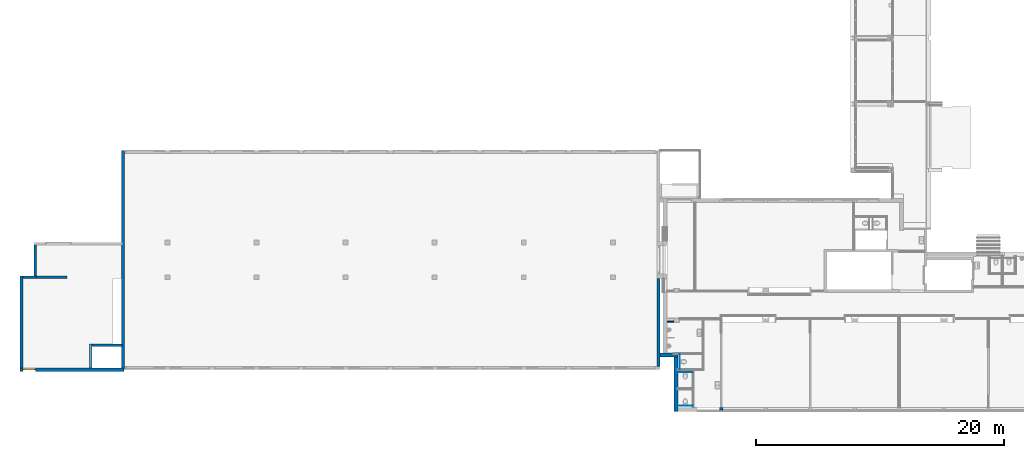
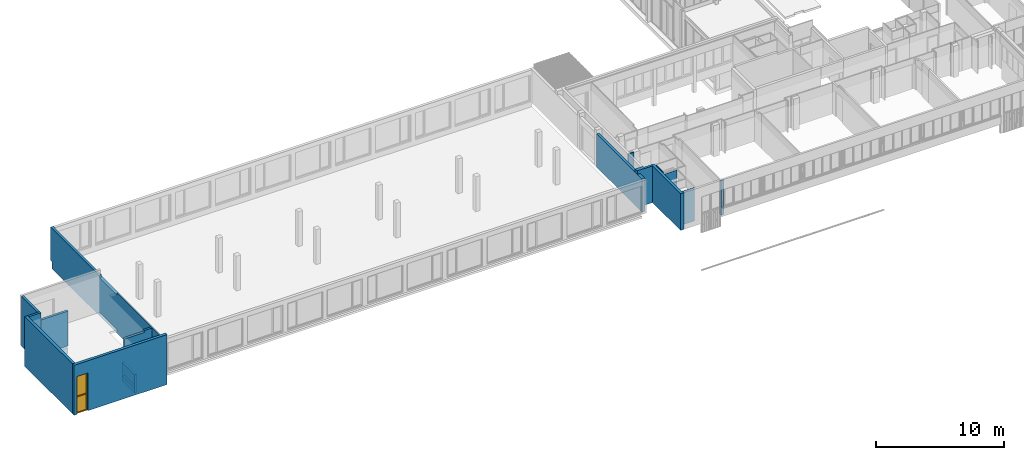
# One storey, part 36 of 99: 16 walls, 1 window, 1 opening.
"""IFC2X3 building model written with IfcOpenShell, lengths in millimetres."""

from ifc_helpers import new_model, entity, si_unit, converted_unit, derived_unit, money_unit, direction, frame, origin_with_axes, place, context, subcontext, project, spatial, open_shell, faceted_brep, surface_model, material, type_object, element, fill, save


model = new_model("IFC2X3")

# Units and contexts
model_context = context("Model", 3, precision=0.01, world=origin_with_axes(), true_north=direction((0.0, 1.0)))
body_context = subcontext(model_context, "Body", "Model", "MODEL_VIEW")
ifc_project = project(units=[si_unit("LENGTHUNIT", "METRE", prefix="MILLI"), si_unit("AREAUNIT", "SQUARE_METRE"), si_unit("VOLUMEUNIT", "CUBIC_METRE"), converted_unit("PLANEANGLEUNIT", "DEGREE", entity("IfcPlaneAngleMeasure", 0.0174532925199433), si_unit("PLANEANGLEUNIT", "RADIAN"), dimensions=[0, 0, 0, 0, 0, 0, 0]), money_unit("EUR"), converted_unit("TIMEUNIT", "Year", entity("IfcTimeMeasure", 31557600.0), si_unit("TIMEUNIT", "SECOND"), dimensions=[0, 0, 1, 0, 0, 0, 0]), si_unit("MASSUNIT", "GRAM", prefix="KILO"), si_unit("THERMODYNAMICTEMPERATUREUNIT", "DEGREE_CELSIUS"), si_unit("LUMINOUSINTENSITYUNIT", "LUMEN"), si_unit("ENERGYUNIT", "JOULE", prefix="MEGA"), derived_unit("THERMALCONDUCTANCEUNIT", [(si_unit("POWERUNIT", "WATT"), 1), (si_unit("LENGTHUNIT", "METRE"), -1), (si_unit("THERMODYNAMICTEMPERATUREUNIT", "KELVIN"), -1)]), derived_unit("SPECIFICHEATCAPACITYUNIT", [(si_unit("ENERGYUNIT", "JOULE"), 1), (si_unit("MASSUNIT", "GRAM", prefix="KILO"), -1), (si_unit("THERMODYNAMICTEMPERATUREUNIT", "KELVIN"), -1)]), derived_unit("MASSDENSITYUNIT", [(si_unit("MASSUNIT", "GRAM", prefix="KILO"), 1), (si_unit("VOLUMEUNIT", "CUBIC_METRE"), -1)])], contexts=[model_context])

# Site, building, storey
site_placement = place(None, origin_with_axes())
site = spatial("IfcSite", under=ifc_project, at=site_placement, Name="Site", CompositionType="ELEMENT")
building_placement = place(site_placement, origin_with_axes())
building = spatial("IfcBuilding", under=site, at=building_placement, Name="Naam gebouw", CompositionType="ELEMENT")
storey_placement = place(building_placement, frame((0.0, 0.0, 7650.0), z_axis=(0.0, 0.0, 1.0), x_axis=(1.0, 0.0, 0.0)))
storey = spatial("IfcBuildingStorey", under=building, at=storey_placement, Name="2e verdieping N", CompositionType="ELEMENT", Elevation=7650.0)

# Walls
ifc_material_1 = material(Name="ALG - CONSTRUCTIEF")
wall_type_1 = type_object("IfcWallType", Name="ALG - CONSTRUCTIEF 100", PredefinedType="NOTDEFINED")
wall_1_placement = place(storey_placement, frame((-769.586231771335, 10391.00442345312, -99.99999999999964), z_axis=(0.0, 0.0, 1.0), x_axis=(1.0, 0.0, 0.0)))
element("IfcWall", 1, at=wall_1_placement, inside=storey, type_object=wall_type_1, material=ifc_material_1, Name="_Wand-x", context=body_context, shape_type="Brep", body=[
    faceted_brep([(519.586231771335, 50.00000000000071, 99.99999999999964), (0.0, 50.00000000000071, 99.99999999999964), (0.0, 50.00000000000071, 3089.999999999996), (519.586231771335, 50.00000000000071, 3089.999999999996), (519.586231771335, -50.00000000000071, 99.99999999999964), (0.0, -50.00000000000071, 99.99999999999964), (0.0, -49.99999999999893, 3089.999999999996), (519.586231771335, -49.99999999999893, 3089.999999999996)], [[[0, 1, 2, 3]], [[4, 5, 1, 0]], [[1, 5, 6, 2]], [[2, 6, 7, 3]], [[4, 0, 3, 7]], [[5, 4, 7, 6]]]),
])
wall_type_2 = type_object("IfcWallType", Name="ALG - CONSTRUCTIEF 200", PredefinedType="NOTDEFINED")
wall_2_placement = place(storey_placement, frame((-53049.99999999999, 13965.57502434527, -1200.0), z_axis=(0.0, 0.0, 1.0), x_axis=(1.0, 0.0, 0.0)))
element("IfcWall", 2, at=wall_2_placement, inside=storey, type_object=wall_type_2, material=ifc_material_1, Name="_Wand-x", context=body_context, shape_type="Brep", body=[
    faceted_brep([(250.0, 99.99999999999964, 0.0), (250.0, 99.99999999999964, 740.0000000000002), (250.0, 99.99999999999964, 4760.000000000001), (1350.000000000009, 99.99999999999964, 4760.000000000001), (1350.000000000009, 99.99999999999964, 0.0), (250.0, -99.99999999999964, 0.0), (250.0, -99.99999999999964, 4760.000000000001), (1350.000000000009, -99.99999999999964, 4760.000000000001), (1350.000000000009, -99.99999999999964, 0.0)], [[[0, 1, 2, 3, 4]], [[5, 6, 2, 1, 0]], [[3, 2, 6, 7]], [[8, 4, 3, 7]], [[8, 5, 0, 4]], [[7, 6, 5, 8]]]),
])
wall_3_placement = place(storey_placement, frame((-51699.99999999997, 13965.57502434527, -1200.0), z_axis=(0.0, 0.0, 1.0), x_axis=(1.0, 0.0, 0.0)))
element("IfcWall", 3, at=wall_3_placement, inside=storey, type_object=wall_type_2, material=ifc_material_1, Name="_Wand-x", context=body_context, shape_type="Brep", body=[
    faceted_brep([(0.0, 99.99999999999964, 0.0), (-5.400124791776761e-10, 99.99999999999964, 540.0), (2449.999999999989, 99.99999999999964, 540.0), (2449.999999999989, 99.99999999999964, 0.0), (0.0, -99.99999999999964, 0.0), (0.0, -99.99999999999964, 540.0), (2449.999999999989, -99.99999999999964, 540.0), (2449.999999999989, -99.99999999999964, 0.0)], [[[0, 1, 2, 3]], [[4, 5, 1, 0]], [[5, 6, 2, 1]], [[3, 2, 6, 7]], [[7, 4, 0, 3]], [[7, 6, 5, 4]]]),
    faceted_brep([(2449.999999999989, -99.99999999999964, 4060.000000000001), (2449.999999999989, -99.99999999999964, 740.0000000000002), (2449.999999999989, 99.99999999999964, 740.0000000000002), (2449.999999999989, 99.99999999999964, 4060.000000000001), (0.0, -99.99999999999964, 4060.000000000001), (0.0, -99.99999999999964, 740.0000000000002), (-5.400124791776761e-10, 99.99999999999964, 740.0000000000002), (0.0, 99.99999999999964, 4060.000000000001)], [[[0, 1, 2, 3]], [[4, 5, 1, 0]], [[5, 6, 2, 1]], [[3, 2, 6, 7]], [[3, 7, 4, 0]], [[7, 6, 5, 4]]]),
])
wall_4_placement = place(storey_placement, frame((-47349.99999999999, 6365.575024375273, -1200.0), z_axis=(0.0, 0.0, 1.0), x_axis=(0.0, 1.0, 0.0)))
element("IfcWall", 4, at=wall_4_placement, inside=storey, type_object=wall_type_2, material=ifc_material_1, Name="_Wand-x", context=body_context, shape_type="Brep", body=[
    faceted_brep([(2199.93011899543, 99.99999999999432, 0.0), (2199.930118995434, 100.0000000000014, 540.0), (2199.930118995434, -100.0000000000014, 540.0), (2199.93011899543, -100.0000000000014, 0.0), (250.2190148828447, 100.0000000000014, 739.9999999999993), (250.2190148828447, 100.0000000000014, 540.0), (250.0, 100.0000000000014, 0.0), (250.0, 100.0000000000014, 1759.999999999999), (2199.930118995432, 100.0000000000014, 1759.999999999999), (2199.930118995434, 100.0000000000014, 739.9999999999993), (1999.930118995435, 100.0000000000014, 739.9999999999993), (250.0, -100.0000000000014, 540.0), (250.0, -100.0000000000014, 0.0), (250.0, -100.0000000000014, 740.0000000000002), (250.0, -100.0000000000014, 1759.999999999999), (2199.930118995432, -100.0000000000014, 1759.999999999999), (2199.930118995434, -100.0000000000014, 739.9999999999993), (1999.930094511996, -100.0000000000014, 739.9999999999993)], [[[0, 1, 2, 3]], [[4, 5, 1, 0, 6, 7, 8, 9, 10]], [[11, 2, 1, 5]], [[2, 11, 12, 3]], [[0, 3, 12, 6]], [[4, 13, 11, 5]], [[12, 11, 13, 14, 7, 6]], [[15, 8, 7, 14]], [[8, 15, 16, 9]], [[16, 17, 13, 4, 10, 9]], [[14, 13, 17, 16, 15]]]),
])
wall_5_placement = place(storey_placement, frame((-51799.99999999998, 16690.57502431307, -1200.0), z_axis=(0.0, 0.0, 1.0), x_axis=(0.0, -1.0, 0.0)))
element("IfcWall", 5, at=wall_5_placement, inside=storey, type_object=wall_type_2, material=ifc_material_1, Name="_Wand-x", context=body_context, shape_type="Brep", body=[
    faceted_brep([(99.99999993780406, -100.0000000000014, 4760.000000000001), (2624.999999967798, -100.0000000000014, 4760.000000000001), (2624.999999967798, 100.0000000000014, 4760.000000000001), (99.99999993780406, 100.0000000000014, 4760.000000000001), (2624.999999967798, -100.0000000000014, 0.0), (99.99999993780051, -100.0000000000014, 740.0000000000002), (99.99999993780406, -100.0000000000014, 0.0), (2624.999999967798, 100.0000000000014, 0.0), (2624.999999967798, 100.0000000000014, 740.0000000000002), (99.99999993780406, 100.0000000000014, 0.0)], [[[0, 1, 2, 3]], [[4, 1, 0, 5, 6]], [[7, 8, 2, 1, 4]], [[3, 2, 8, 7, 9]], [[6, 5, 0, 3, 9]], [[9, 7, 4, 6]]]),
])
wall_6_placement = place(storey_placement, frame((-47349.99999999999, 8465.505143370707, -1200.0), z_axis=(0.0, 0.0, 1.0), x_axis=(1.0, 0.0, 0.0)))
element("IfcWall", 6, at=wall_6_placement, inside=storey, type_object=wall_type_2, material=ifc_material_1, Name="_Wand-x", context=body_context, shape_type="Brep", body=[
    faceted_brep([(1799.999994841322, 99.99999999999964, 4239.999999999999), (2501.342445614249, 99.99999999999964, 4239.999999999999), (2501.342445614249, 99.99999999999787, 4060.000000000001), (2599.999999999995, 99.99999999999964, 4060.000000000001), (2599.999999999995, 99.99999999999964, 739.9999999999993), (2501.342445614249, 99.99999999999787, 740.0000000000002), (2501.342445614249, 99.99999999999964, 719.9999999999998), (2499.999999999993, 99.99999999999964, 719.9999999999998), (2499.999999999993, 99.99999999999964, 0.0), (100.0000000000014, 99.99999999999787, 0.0), (100.0000000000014, 99.99999999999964, 540.0), (1799.999994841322, 99.99999999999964, 540.0), (1799.999994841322, 99.99999999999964, 739.9999999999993), (100.0000000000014, 99.99999999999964, 739.9999999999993), (100.0000000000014, 99.99999999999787, 1759.999999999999), (0.0, 99.99999999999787, 1759.999999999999), (0.0, 99.99999999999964, 4060.000000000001), (1799.999994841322, 99.99999999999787, 4060.000000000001), (1799.999999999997, -99.99992917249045, 4239.999999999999), (2501.189548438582, -99.99999125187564, 4239.999999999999), (2501.189548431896, -99.99999999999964, 4060.000000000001), (2599.999999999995, -99.99999999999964, 4060.000000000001), (2599.999999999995, -99.99999999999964, 739.9999999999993), (2501.189548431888, -99.99999999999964, 740.0000000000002), (2501.189548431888, -99.99999999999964, 719.9999999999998), (2499.999999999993, -99.99999999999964, 719.9999999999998), (2499.999999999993, -99.99999999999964, 0.0), (100.0000000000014, -99.99999999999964, 0.0), (99.99991735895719, -99.99999999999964, 540.0), (1799.999999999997, -99.99992917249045, 540.0), (1799.999999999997, -99.99992917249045, 740.0000000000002), (99.99991735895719, -99.99999999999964, 739.9999999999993), (100.0000000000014, -99.99999999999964, 1759.999999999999), (0.0, -99.99999999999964, 1759.999999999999), (0.0, -99.99999999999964, 4060.000000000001), (1799.999999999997, -99.99992917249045, 4060.000000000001), (99.99991735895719, -100.0000244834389, 4060.000000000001)], [[[0, 1, 2, 3, 4, 5, 6, 7, 8, 9, 10, 11, 12, 13, 14, 15, 16, 17]], [[18, 19, 1, 0]], [[20, 2, 1, 19]], [[20, 21, 3, 2]], [[4, 3, 21, 22]], [[23, 5, 4, 22]], [[24, 6, 5, 23]], [[7, 6, 24, 25]], [[25, 26, 8, 7]], [[8, 26, 27, 9]], [[27, 28, 10, 9]], [[29, 11, 10, 28]], [[30, 12, 11, 29]], [[31, 13, 12, 30]], [[14, 13, 31, 32]], [[32, 33, 15, 14]], [[33, 34, 16, 15]], [[35, 17, 16, 34, 36]], [[35, 18, 0, 17]], [[21, 20, 19, 18, 35, 36, 34, 33, 32, 31, 30, 29, 28, 27, 26, 25, 24, 23, 22]]]),
])
wall_type_3 = type_object("IfcWallType", Name="ALG - CONSTRUCTIEF 330", PredefinedType="NOTDEFINED")
wall_7_placement = place(storey_placement, frame((100.0000438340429, 3115.658971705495, -99.99999999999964), z_axis=(0.0, 0.0, 1.0), x_axis=(0.0, 1.0, 0.0)))
element("IfcWall", 7, at=wall_7_placement, inside=storey, type_object=wall_type_3, material=ifc_material_1, Name="_Wand-x", context=body_context, shape_type="Brep", body=[
    faceted_brep([(4390.120870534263, 330.0000000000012, 3299.999999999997), (4390.120870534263, 100.0000438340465, 3299.999999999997), (4390.120870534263, -3.865520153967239e-06, 3299.999999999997), (4390.120870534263, -3.865520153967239e-06, 99.99999999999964), (4390.120870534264, 100.0000438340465, 99.99999999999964), (4390.120870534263, 330.0000000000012, 99.99999999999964), (4579.9302714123, 330.0000000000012, 3299.999999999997), (4579.9302714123, 100.0000438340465, 3299.999999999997), (180.2534533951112, 100.0000438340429, 3299.999999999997), (180.2534533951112, -3.865520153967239e-06, 3299.999999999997), (180.2534533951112, 0.0, 3500.0), (0.0, 0.0, 3500.0), (0.0, 0.0, 0.0), (329.9999999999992, 0.0, 0.0), (329.9999999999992, -3.865520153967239e-06, 99.99999999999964), (329.9999999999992, 100.0000438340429, 99.99999999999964), (4579.9302714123, 100.0000438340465, 99.99999999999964), (4579.9302714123, 330.0000000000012, 99.99999999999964), (0.0, 330.0000000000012, 3500.0), (4579.9302714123, 330.0000000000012, 3500.0), (4579.9302714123, 330.0000000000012, 0.0), (0.0, 330.0000000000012, 0.0), (4579.9302714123, 100.0000438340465, 3500.0), (180.2534533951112, 100.0000438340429, 3500.0), (4579.9302714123, 100.0000438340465, 0.0), (329.9999999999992, 100.0000438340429, 0.0)], [[[0, 1, 2, 3, 4, 5]], [[6, 7, 1, 0]], [[8, 9, 2, 1]], [[2, 9, 10, 11, 12, 13, 14, 3]], [[15, 4, 3, 14]], [[4, 16, 17, 5]], [[18, 19, 6, 0, 5, 17, 20, 21]], [[6, 19, 22, 7]], [[7, 22, 23, 8, 1]], [[8, 23, 10, 9]], [[23, 22, 19, 18, 11, 10]], [[11, 18, 21, 12]], [[24, 25, 13, 12, 21, 20]], [[15, 14, 13, 25]], [[24, 16, 4, 15, 25]], [[20, 17, 16, 24]]]),
])
wall_8_placement = place(storey_placement, frame((100.0000438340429, 7835.779842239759, -99.99999999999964), z_axis=(0.0, 0.0, 1.0), x_axis=(-1.0, 0.0, 0.0)))
element("IfcWall", 8, at=wall_8_placement, inside=storey, type_object=wall_type_3, material=ifc_material_1, Name="_Wand-x", context=body_context, shape_type="Brep", body=[
    faceted_brep([(1700.00004380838, 0.0, 3500.0), (984.4276832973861, 0.0, 3500.0), (984.4276832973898, 0.0, 3299.999999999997), (330.0000000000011, 0.0, 3299.999999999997), (0.0, 0.0, 3299.999999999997), (0.0, 0.0, 99.99999999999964), (330.0000000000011, 0.0, 99.99999999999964), (984.4276832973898, 0.0, 99.99999999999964), (984.4276832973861, 0.0, 0.0), (1450.000043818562, 0.0, 0.0), (1450.000043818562, 0.0, 3160.0), (1700.000043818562, 0.0, 3160.0), (330.0000000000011, 140.1905991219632, 3500.0), (984.4276832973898, 140.1905991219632, 3500.0), (1700.00004380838, 330.0000000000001, 3500.0), (330.0000000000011, 330.0000000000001, 3500.0), (984.4276832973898, 140.1905991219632, 3299.999999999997), (330.0000000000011, 140.1905991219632, 3299.999999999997), (330.0000000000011, 330.0000000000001, 3299.999999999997), (0.0, 330.0000000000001, 3299.999999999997), (0.0, 330.0000000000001, 99.99999999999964), (330.0000000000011, 330.0000000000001, 99.99999999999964), (330.0000000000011, 140.1905991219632, 99.99999999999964), (984.4276832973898, 140.1905991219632, 99.99999999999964), (984.4276832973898, 140.1905991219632, 0.0), (330.0000000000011, 140.1905991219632, 0.0), (330.0000000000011, 330.0000000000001, 0.0), (1450.000043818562, 330.0000000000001, 0.0), (1450.000043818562, 330.0000000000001, 3160.0), (1700.000043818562, 330.000000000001, 3160.0)], [[[0, 1, 2, 3, 4, 5, 6, 7, 8, 9, 10, 11]], [[12, 13, 1, 0, 14, 15]], [[16, 2, 1, 13]], [[16, 17, 3, 2]], [[4, 3, 17, 18, 19]], [[20, 5, 4, 19]], [[21, 22, 6, 5, 20]], [[23, 7, 6, 22]], [[24, 8, 7, 23]], [[8, 24, 25, 26, 27, 9]], [[27, 28, 10, 9]], [[28, 29, 11, 10]], [[14, 0, 11, 29]], [[16, 13, 12, 17]], [[14, 29, 28, 27, 26, 21, 20, 19, 18, 15]], [[18, 17, 12, 15]], [[26, 25, 22, 21]], [[23, 22, 25, 24]]]),
])
wall_type_4 = type_object("IfcWallType", Name="ALG - CONSTRUCTIEF 250", PredefinedType="NOTDEFINED")
wall_9_placement = place(storey_placement, frame((-44600.00000015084, 6765.575043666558, -790.0), z_axis=(0.0, 0.0, 1.0), x_axis=(0.0, 1.0, 0.0)))
element("IfcWall", 9, at=wall_9_placement, inside=storey, type_object=wall_type_4, material=ifc_material_1, Name="_Wand-x", context=body_context, shape_type="Brep", body=[
    faceted_brep([(17199.99998070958, 50.00000000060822, 3650.000000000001), (9824.999980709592, 49.99999991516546, 3650.000000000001), (9824.999980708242, 250.0000000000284, 3650.000000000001), (7099.999993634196, 250.0000000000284, 3650.000000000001), (7099.999993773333, 244.6057254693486, 3650.000000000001), (43.91897586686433, 250.0000000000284, 3650.000000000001), (-0.03524988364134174, 250.0000000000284, 3650.000000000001), (-0.0349502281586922, 0.0, 3650.000000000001), (17199.99998070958, 0.0, 3650.000000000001), (17199.99998070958, 50.00000000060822, 3850.0), (9824.999980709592, 49.99999991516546, 3850.0), (9824.999980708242, 250.0, 3850.0), (17449.9999807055, 250.0, 3850.0), (17449.9999807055, 250.0, 690.0000000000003), (17199.9999807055, 250.0, 690.0000000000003), (17199.9999807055, 250.0, 0.0), (-9.645646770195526e-05, 250.0000000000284, 0.0), (-9.645646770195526e-05, 250.0000000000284, 129.9999999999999), (43.91897587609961, 250.0000000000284, 129.9999999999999), (43.91897587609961, 250.0000000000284, 330.0000000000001), (-9.645646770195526e-05, 250.0000000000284, 330.0000000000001), (-9.645646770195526e-05, 250.0000000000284, 690.0000000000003), (-250.0000964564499, 249.9999035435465, 690.0000000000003), (-250.000096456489, 250.0, 3850.0), (-0.03524988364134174, 250.0, 3850.0), (43.91897651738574, 249.999999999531, 3850.0), (7099.999993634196, 250.0, 3850.0), (7099.999993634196, 250.0000000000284, 330.0000000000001), (7099.999993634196, 250.0000000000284, 129.9999999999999), (9824.999980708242, 250.0000000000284, 129.9999999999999), (9824.999980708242, 250.0000000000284, 330.0000000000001), (7099.999993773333, 244.6057254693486, 3850.0), (-0.0349502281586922, 0.0, 3850.0), (-250.0000000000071, 0.0, 3850.0), (-250.0000000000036, 0.0, 690.0000000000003), (0.0, 0.0, 690.0000000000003), (0.0, 0.0, 330.0000000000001), (17199.99998070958, 0.0, 330.0000000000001), (17199.9999807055, 0.0, 690.0000000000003), (17449.9999807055, 0.0, 690.0000000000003), (17449.9999807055, 0.0, 3850.0), (17199.99998070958, 0.0, 3850.0), (17199.99998070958, 50.00000000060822, 330.0000000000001), (17199.99998070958, 50.00000000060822, 129.9999999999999), (17199.99998070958, 0.0, 129.9999999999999), (17199.9999807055, 0.0, 0.0), (0.0, 0.0, 0.0), (0.0, 0.0, 129.9999999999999), (9824.999980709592, 49.99999991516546, 129.9999999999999), (7099.999993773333, 244.6057254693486, 129.9999999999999), (7099.999993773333, 244.6057254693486, 330.0000000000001), (9824.999980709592, 49.99999991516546, 330.0000000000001)], [[[0, 1, 2, 3, 4, 5, 6, 7, 8]], [[9, 10, 1, 0]], [[2, 1, 10, 11]], [[3, 2, 11, 12, 13, 14, 15, 16, 17, 18, 19, 20, 21, 22, 23, 24, 6, 5, 25, 26], [27, 28, 29, 30]], [[3, 26, 31, 4]], [[4, 31, 25, 5]], [[6, 24, 32, 7]], [[8, 7, 32, 33, 34, 35, 36, 37, 38, 39, 40, 41]], [[0, 8, 41, 9]], [[12, 11, 10, 9, 41, 40]], [[12, 40, 39, 13]], [[38, 14, 13, 39]], [[42, 43, 44, 45, 15, 14, 38, 37]], [[15, 45, 46, 16]], [[46, 47, 17, 16]], [[43, 48, 29, 28, 49, 18, 17, 47, 44]], [[50, 19, 18, 49]], [[42, 37, 36, 20, 19, 50, 27, 30, 51]], [[21, 20, 36, 35]], [[22, 21, 35, 34]], [[33, 23, 22, 34]], [[33, 32, 24, 23]], [[25, 31, 26]], [[49, 28, 27, 50]], [[29, 48, 51, 30]], [[42, 51, 48, 43]], [[44, 47, 46, 45]]]),
])

# Wall, opening, window
wall_10_placement = place(storey_placement, frame((-44649.99999999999, 6365.575024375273, -1200.0), z_axis=(0.0, 0.0, 1.0), x_axis=(-1.0, 0.0, 0.0)))
wall_10 = element("IfcWall", 10, at=wall_10_placement, inside=storey, type_object=wall_type_4, material=ifc_material_1, Name="_Wand-x", context=body_context, shape_type="Brep", body=[
    faceted_brep([(8149.999999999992, -250.0000000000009, 3600.0), (8149.999999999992, -250.0000000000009, 0.0), (8399.99999999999, -250.0000000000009, 0.0), (8399.99999999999, -250.0000000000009, 740.0000000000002), (8399.99999999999, -250.0, 4760.000000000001), (0.0, -250.0, 4760.000000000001), (0.0, -250.0, 0.0), (7149.999999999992, -250.0000000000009, 0.0), (7149.999999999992, -250.0000000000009, 3600.0), (8149.999999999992, -100.0000000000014, 0.0), (8149.999999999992, 0.0, 3600.0), (8149.999999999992, 0.0, 0.0), (8399.99999999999, 0.0, 0.0), (8399.99999999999, 0.0, 740.0000000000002), (8399.99999999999, 0.0, 4760.000000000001), (0.0, 0.0, 4760.000000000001), (0.0, 0.0, 0.0), (7149.999999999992, -100.0000000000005, 0.0), (7149.999999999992, 0.0, 0.0), (7149.999999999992, 0.0, 3600.0)], [[[0, 1, 2, 3, 4, 5, 6, 7, 8]], [[9, 1, 0, 10, 11]], [[1, 9, 11, 12, 2]], [[2, 12, 13, 14, 4, 3]], [[4, 14, 15, 5]], [[15, 16, 6, 5]], [[17, 7, 6, 16, 18]], [[8, 7, 17, 18, 19]], [[0, 8, 19, 10]], [[12, 11, 10, 19, 18, 16, 15, 14, 13]]]),
])
opening_placement = place(wall_10_placement, frame((7649.999999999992, 0.0, 0.0), z_axis=(0.0, 0.0, 1.0), x_axis=(1.0, 0.0, 0.0)))
opening = element("IfcOpeningElement", 11, at=opening_placement, cuts=wall_10, Name="_Merk-x", context=body_context, shape_type="Brep", body=[
    faceted_brep([(-500.0, -100.0000000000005, 0.0), (-500.0, -100.0000000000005, 3600.0), (-500.0, 1.00000000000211, 3600.0), (-500.0, 1.00000000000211, 0.0), (-500.0, -251.0000000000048, 0.0), (-500.0, -251.0000000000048, 3600.0), (500.0, -100.0000000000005, 3600.0), (500.0, 1.00000000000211, 3600.0), (500.0, -251.0000000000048, 3600.0), (500.0, 1.000000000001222, 0.0), (500.0, -100.0000000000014, 0.0), (500.0, -251.0000000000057, 0.0)], [[[0, 1, 2, 3]], [[1, 0, 4, 5]], [[6, 7, 2, 1, 5, 8]], [[7, 9, 3, 2]], [[0, 3, 9, 10, 11, 4]], [[5, 4, 11, 8]], [[6, 10, 9, 7]], [[10, 6, 8, 11]]]),
])
window_style = type_object("IfcWindowStyle", Name="R1 27", ConstructionType="NOTDEFINED", OperationType="DOUBLE_PANEL_HORIZONTAL", ParameterTakesPrecedence=False, Sizeable=False)
window_placement = place(opening_placement, frame((500.0, 0.0, 0.0), z_axis=(0.0, 0.0, 1.0), x_axis=(-1.0, 0.0, 0.0)))
window = element("IfcWindow", 12, at=window_placement, inside=storey, type_object=window_style, Name="_Merk-x", ObjectType="WINDOW", OverallHeight=3600.0, OverallWidth=1000.0, context=body_context, shape_type="SurfaceModel", body=[
    faceted_brep([(67.00000000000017, 100.0000000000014, 1566.5), (67.00000000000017, 214.0000000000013, 1566.5), (67.00000000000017, 214.0000000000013, 1633.500000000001), (67.00000000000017, 100.0000000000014, 1633.500000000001), (67.00000000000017, 100.0000000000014, 67.00000000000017), (67.00000000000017, 214.0000000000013, 67.00000000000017), (0.0, 214.0000000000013, 67.00000000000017), (0.0, 214.0000000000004, 3533.0), (67.00000000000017, 214.0000000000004, 3533.0), (67.00000000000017, 100.0000000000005, 3533.0), (0.0, 100.0000000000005, 3533.0), (0.0, 100.0000000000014, 67.00000000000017)], [[[0, 1, 2, 3]], [[4, 5, 1, 0]], [[1, 5, 6, 7, 8, 2]], [[3, 2, 8, 9]], [[0, 3, 9, 10, 11, 4]], [[11, 6, 5, 4]], [[10, 7, 6, 11]], [[9, 8, 7, 10]]]),
    faceted_brep([(932.9999999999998, 100.0000000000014, 67.00000000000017), (932.9999999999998, 214.0000000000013, 67.00000000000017), (1000.0, 214.0000000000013, 67.00000000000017), (1000.0, 100.0000000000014, 67.00000000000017), (932.9999999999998, 100.0000000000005, 1566.5), (932.9999999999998, 214.0000000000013, 1566.5), (932.9999999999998, 214.0000000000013, 1633.500000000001), (932.9999999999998, 214.0000000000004, 3533.0), (1000.0, 214.0000000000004, 3533.0), (1000.0, 100.0000000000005, 3533.0), (932.9999999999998, 100.0000000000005, 3533.0), (932.9999999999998, 100.0000000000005, 1633.500000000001)], [[[0, 1, 2, 3]], [[4, 5, 1, 0]], [[1, 5, 6, 7, 8, 2]], [[3, 2, 8, 9]], [[0, 3, 9, 10, 11, 4]], [[11, 6, 5, 4]], [[10, 7, 6, 11]], [[9, 8, 7, 10]]]),
    faceted_brep([(67.00000000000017, 100.0000000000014, 1566.5), (67.00000000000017, 214.0000000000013, 1566.5), (932.9999999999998, 214.0000000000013, 1566.5), (932.9999999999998, 100.0000000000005, 1566.5), (67.00000000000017, 100.0000000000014, 1633.500000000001), (67.00000000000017, 214.0000000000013, 1633.500000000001), (932.9999999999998, 214.0000000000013, 1633.500000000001), (932.9999999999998, 100.0000000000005, 1633.500000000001)], [[[0, 1, 2, 3]], [[4, 5, 1, 0]], [[1, 5, 6, 2]], [[3, 2, 6, 7]], [[0, 3, 7, 4]], [[7, 6, 5, 4]]]),
    faceted_brep([(67.00000000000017, 100.0000000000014, 67.00000000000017), (67.00000000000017, 214.0000000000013, 67.00000000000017), (0.0, 214.0000000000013, 67.00000000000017), (0.0, 100.0000000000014, 67.00000000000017), (932.9999999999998, 100.0000000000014, 67.00000000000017), (932.9999999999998, 214.0000000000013, 67.00000000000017), (1000.0, 214.0000000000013, 67.00000000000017), (1000.0, 214.0000000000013, 0.0), (0.0, 214.0000000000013, 0.0), (0.0, 100.0000000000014, 0.0), (1000.0, 100.0000000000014, 0.0), (1000.0, 100.0000000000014, 67.00000000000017)], [[[0, 1, 2, 3]], [[4, 5, 1, 0]], [[1, 5, 6, 7, 8, 2]], [[3, 2, 8, 9]], [[0, 3, 9, 10, 11, 4]], [[11, 6, 5, 4]], [[10, 7, 6, 11]], [[9, 8, 7, 10]]]),
    faceted_brep([(932.9999999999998, 100.0000000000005, 3533.0), (932.9999999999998, 214.0000000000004, 3533.0), (1000.0, 214.0000000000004, 3533.0), (1000.0, 100.0000000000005, 3533.0), (67.00000000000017, 100.0000000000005, 3533.0), (67.00000000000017, 214.0000000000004, 3533.0), (0.0, 214.0000000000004, 3533.0), (0.0, 214.0000000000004, 3600.0), (1000.0, 214.0000000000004, 3600.0), (1000.0, 100.0000000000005, 3600.0), (0.0, 100.0000000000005, 3600.0), (0.0, 100.0000000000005, 3533.0)], [[[0, 1, 2, 3]], [[4, 5, 1, 0]], [[1, 5, 6, 7, 8, 2]], [[3, 2, 8, 9]], [[0, 3, 9, 10, 11, 4]], [[11, 6, 5, 4]], [[10, 7, 6, 11]], [[9, 8, 7, 10]]]),
    surface_model("IfcShellBasedSurfaceModel", [(67.00000000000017, 150.0000000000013, 1633.500000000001), (932.9999999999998, 150.0000000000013, 1633.500000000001), (932.9999999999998, 150.0000000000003, 3533.0), (67.00000000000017, 150.0000000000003, 3533.0)], [open_shell([[[0, 1, 2, 3]]])]),
    surface_model("IfcShellBasedSurfaceModel", [(67.00000000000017, 170.0000000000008, 1633.500000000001), (67.00000000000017, 170.0000000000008, 3533.0), (932.9999999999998, 170.0000000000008, 3533.0), (932.9999999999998, 170.0000000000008, 1633.500000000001)], [open_shell([[[0, 1, 2, 3]]])]),
    faceted_brep([(67.00000000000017, 160.000000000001, 67.00000000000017), (67.00000000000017, 214.0000000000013, 67.00000000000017), (932.9999999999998, 214.0000000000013, 67.00000000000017), (932.9999999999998, 160.000000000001, 67.00000000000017), (67.00000000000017, 160.000000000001, 1566.5), (67.00000000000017, 214.0000000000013, 1566.5), (932.9999999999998, 214.0000000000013, 1566.5), (932.9999999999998, 160.000000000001, 1566.5)], [[[0, 1, 2, 3]], [[4, 5, 1, 0]], [[1, 5, 6, 2]], [[3, 2, 6, 7]], [[0, 3, 7, 4]], [[7, 6, 5, 4]]]),
])
fill(opening, window)

# Walls
wall_11_placement = place(storey_placement, frame((-53049.99999999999, 13965.57502434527, -1200.0), z_axis=(0.0, 0.0, 1.0), x_axis=(0.0, -1.0, 0.0)))
element("IfcWall", 13, at=wall_11_placement, inside=storey, type_object=wall_type_4, material=ifc_material_1, Name="_Wand-x", context=body_context, shape_type="Brep", body=[
    faceted_brep([(-99.99999999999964, 0.0, 4760.000000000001), (7349.999999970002, 0.0, 4760.000000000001), (7349.999999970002, 250.0, 4760.000000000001), (-99.99999999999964, 250.0, 4760.000000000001), (7349.999999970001, 0.0, 0.0), (7349.999999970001, 0.0, 740.0000000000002), (-99.99999999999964, 0.0, 0.0), (7349.999999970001, 250.0, 0.0), (-99.99999999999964, 250.0, 0.0)], [[[0, 1, 2, 3]], [[4, 5, 1, 0, 6]], [[7, 2, 1, 5, 4]], [[3, 2, 7, 8]], [[8, 6, 0, 3]], [[8, 7, 4, 6]]]),
])
wall_12_placement = place(storey_placement, frame((-1599.999999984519, 14215.57073452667, -99.99999999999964), z_axis=(0.0, 0.0, 1.0), x_axis=(0.0, -1.0, 0.0)))
element("IfcWall", 14, at=wall_12_placement, inside=storey, type_object=wall_type_4, material=ifc_material_1, Name="_Wand-x", context=body_context, shape_type="Brep", body=[
    faceted_brep([(7449.979100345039, -1.18902665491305e-08, 3160.0), (7449.979003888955, 249.9999999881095, 3160.0), (329.9987077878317, 249.9999999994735, 3160.0), (330.0000000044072, -5.264677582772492e-10, 3160.0), (7449.979100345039, -1.189048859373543e-08, 0.0), (7449.979003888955, 249.9999999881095, 0.0), (329.9987077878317, 249.9999999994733, 0.0), (330.0000000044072, -5.266898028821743e-10, 0.0)], [[[0, 1, 2, 3]], [[1, 0, 4, 5]], [[1, 5, 6, 2]], [[7, 3, 2, 6]], [[4, 0, 3, 7]], [[5, 4, 7, 6]]]),
])
ifc_material_2 = material(Name="ALG - GEVEL")
wall_type_5 = type_object("IfcWallType", Name="ALG - GEVEL 260", PredefinedType="NOTDEFINED")
wall_13_placement = place(storey_placement, frame((3462.498759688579, 3185.658971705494, 0.0), z_axis=(0.0, 0.0, 1.0), x_axis=(1.0, 0.0, 0.0)))
element("IfcWall", 15, at=wall_13_placement, inside=storey, type_object=wall_type_5, material=ifc_material_2, Name="_Wand-x", context=body_context, shape_type="Brep", body=[
    faceted_brep([(275.0012403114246, 44.00973599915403, 2440.000000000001), (275.0012403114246, 0.00973599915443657, 2440.000000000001), (0.001240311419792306, 0.00973599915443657, 2440.000000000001), (0.001240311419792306, 44.00973599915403, 2440.000000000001), (275.0012403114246, 44.00973599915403, 737.6344147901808), (275.0012403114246, 6.999999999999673, 737.6344147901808), (275.0000000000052, 6.999999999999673, 736.8361337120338), (275.0000000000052, 0.0, 735.601844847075), (275.0000000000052, 0.0, 0.0), (275.0000000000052, 260.0000000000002, 0.0), (275.0000000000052, 260.0000000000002, 3199.999999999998), (275.0000000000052, 110.2534533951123, 3199.999999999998), (275.0000000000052, 110.2534533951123, 3299.999999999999), (275.0000000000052, 0.0, 3299.999999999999), (0.0, 0.0, 3299.999999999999), (0.0, 6.999999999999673, 736.8361337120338), (0.001240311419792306, 6.999999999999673, 737.6344147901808), (0.001240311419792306, 44.00973599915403, 737.6344147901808), (0.0, 110.2534533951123, 3299.999999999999), (0.0, 110.2534533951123, 3199.999999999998), (0.0, 260.0000000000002, 3199.999999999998), (0.0, 260.0000000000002, 0.0), (0.0, 0.0, 0.0), (0.0, 0.0, 735.601844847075)], [[[0, 1, 2, 3]], [[1, 0, 4, 5, 6, 7, 8, 9, 10, 11, 12, 13]], [[2, 1, 13, 14]], [[15, 16, 17, 3, 2, 14, 18, 19, 20, 21, 22, 23]], [[3, 17, 4, 0]], [[17, 16, 5, 4]], [[5, 16, 15, 6]], [[15, 23, 7, 6]], [[22, 8, 7, 23]], [[9, 8, 22, 21]], [[10, 9, 21, 20]], [[10, 20, 19, 11]], [[12, 11, 19, 18]], [[18, 14, 13, 12]]]),
])
ifc_material_3 = material(Name="Gipsplaat")
wall_type_6 = type_object("IfcWallType", Name="Metalstud 150 enkel 150", PredefinedType="NOTDEFINED")
wall_14_placement = place(storey_placement, frame((100.0000479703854, 3596.873864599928, 0.0), z_axis=(0.0, 0.0, 1.0), x_axis=(0.9999999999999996, 3.126828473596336e-08, 0.0)))
element("IfcWall", 16, at=wall_14_placement, inside=storey, type_object=wall_type_6, material=ifc_material_3, Name="_Wand-x", context=body_context, shape_type="Brep", body=[
    faceted_brep([(1199.999997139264, -12.50003752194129, 3199.999999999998), (1199.999997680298, -3.752194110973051e-05, 3199.999999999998), (-4.136342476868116e-06, 0.0, 3199.999999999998), (-4.527196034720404e-06, -12.49999999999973, 3199.999999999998), (1199.999997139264, -12.50003752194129, 0.0), (1199.999997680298, -3.752194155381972e-05, 0.0), (-4.136342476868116e-06, 0.0, 0.0), (-4.527196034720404e-06, -12.50000000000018, 0.0)], [[[0, 1, 2, 3]], [[1, 0, 4, 5]], [[1, 5, 6, 2]], [[7, 3, 2, 6]], [[4, 0, 3, 7]], [[5, 4, 7, 6]]]),
])
wall_15_placement = place(storey_placement, frame((250.0000479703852, 6544.463550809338, 0.0), z_axis=(0.0, 0.0, 1.0), x_axis=(0.0, 1.0, 0.0)))
element("IfcWall", 17, at=wall_15_placement, inside=storey, type_object=wall_type_6, material=ifc_material_3, Name="_Wand-x", context=body_context, shape_type="Brep", body=[
    faceted_brep([(0.0, 12.50000000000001, 0.0), (1191.316291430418, 12.50000000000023, 0.0), (1191.316291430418, 0.0, 0.0), (0.0, 0.0, 0.0), (0.0, 12.50000000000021, 3199.999999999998), (1191.316291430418, 12.50000000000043, 3199.999999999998), (1191.316291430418, 0.0, 3199.999999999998), (0.0, 0.0, 3199.999999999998)], [[[0, 1, 2, 3]], [[4, 5, 1, 0]], [[2, 1, 5, 6]], [[3, 2, 6, 7]], [[4, 0, 3, 7]], [[7, 6, 5, 4]]]),
])
wall_16_placement = place(storey_placement, frame((100.0000479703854, 6295.658971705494, 0.0), z_axis=(0.0, 0.0, 1.0), x_axis=(1.0, 0.0, 0.0)))
element("IfcWall", 18, at=wall_16_placement, inside=storey, type_object=wall_type_6, material=ifc_material_3, Name="_Wand-x", context=body_context, shape_type="Brep", body=[
    faceted_brep([(1200.000030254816, 12.50000000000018, 0.0), (1200.000030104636, 0.0, 0.0), (-4.136342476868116e-06, 0.0, 0.0), (-4.136342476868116e-06, 12.50000000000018, 0.0), (1200.000030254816, 12.50000000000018, 3199.999999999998), (1200.000030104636, 0.0, 3199.999999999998), (-4.136342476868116e-06, 0.0, 3199.999999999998), (-4.136342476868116e-06, 12.50000000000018, 3199.999999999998)], [[[0, 1, 2, 3]], [[1, 0, 4, 5]], [[1, 5, 6, 2]], [[7, 3, 2, 6]], [[4, 0, 3, 7]], [[5, 4, 7, 6]]]),
])

save(model, "model.ifc")
